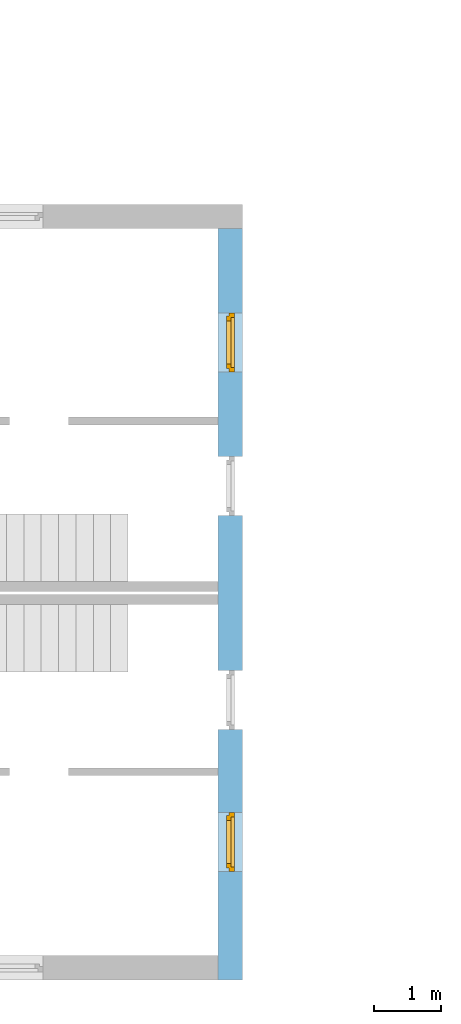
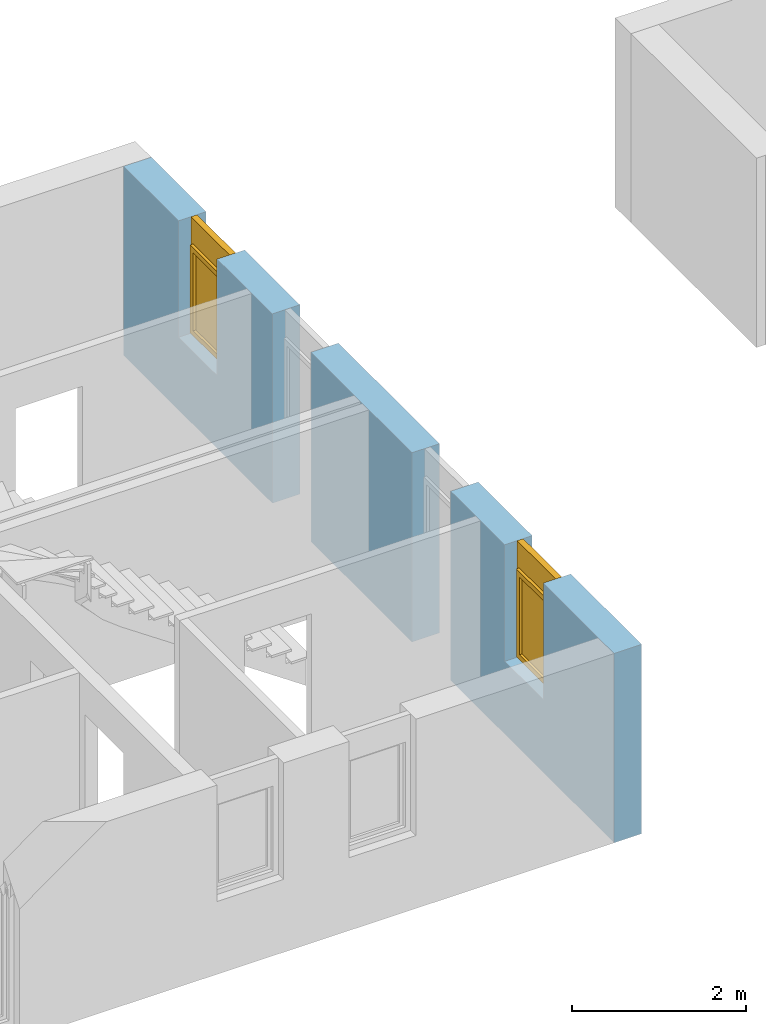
# One storey, part 12 of 42: 2 windows, 4 openings, plus 1 element that does not belong to this part.
"""IFC2X3 building model written with IfcOpenShell, lengths in millimetres."""

from ifc_helpers import new_model, entity, si_unit, converted_unit, frame, frame_2d, origin, origin_with_axes, place, context, subcontext, project, spatial, rectangle, extrude, faceted_brep, material, layer, layer_set, layer_usage, type_object, element, fill, save


model = new_model("IFC2X3")

# Units and contexts
model_context = context("Model", 3, precision=1e-05, world=origin())
body_context = subcontext(model_context, "Body", "Model", "MODEL_VIEW")
ifc_project = project(units=[si_unit("LENGTHUNIT", "METRE", prefix="MILLI"), converted_unit("PLANEANGLEUNIT", "DEGREE", entity("IfcPlaneAngleMeasure", 0.0174532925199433), si_unit("PLANEANGLEUNIT", "RADIAN"), dimensions=[0, 0, 0, 0, 0, 0, 0]), si_unit("AREAUNIT", "SQUARE_METRE"), si_unit("VOLUMEUNIT", "CUBIC_METRE")], contexts=[model_context])

# Building, storey
building_placement = place(None, origin())
building = spatial("IfcBuilding", under=ifc_project, at=building_placement, Name="Gebäude", CompositionType="ELEMENT")
storey_placement = place(building_placement, frame((0.0, 0.0, 2730.0), z_axis=(0.0, 0.0, 1.0), x_axis=(1.0, 0.0, 0.0)))
storey = spatial("IfcBuildingStorey", under=building, at=storey_placement, Name="OG.- Grundriss", CompositionType="ELEMENT", Elevation=2730.0)

# Wall, openings, windows
ifc_material_1 = material(Name="Poroton")
ifc_layer = layer(ifc_material_1, 365.0000000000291)
ifc_layer_set = layer_set([ifc_layer])
ifc_layer_usage = layer_usage(ifc_layer_set, "AXIS2", "POSITIVE", 0.0)
wall_placement = place(storey_placement, frame((142357.7928067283, 125274.8877321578, 0.0), z_axis=(0.0, 0.0, 1.0), x_axis=(0.0, 1.0, 0.0)))
wall = element("IfcWallStandardCase", 1, at=wall_placement, inside=storey, material=ifc_layer_usage, Name="<Unnamed Element>", context=body_context, shape_type="SweptSolid", body=[
    extrude(rectangle(XDim=11250.00000031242, YDim=365.0000000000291, at=frame_2d((5625.000000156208, 182.5000000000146), x_axis=(1.0, 0.0))), origin_with_axes(), (0.0, 0.0, 1.0), 2650.0),
])
opening_1_placement = place(wall_placement, frame((3750.0, 0.0, 0.0), z_axis=(0.0, 1.0, 0.0), x_axis=(0.0, 0.0, 1.0)))
element("IfcOpeningElement", 2, at=opening_1_placement, cuts=wall, Name="Fensteröffnung", ObjectType="Opening", context=body_context, shape_type="SweptSolid", body=[
    extrude(rectangle(XDim=2650.0, YDim=885.0, at=frame_2d((1325.0, 442.5), x_axis=(1.0, 0.0))), origin_with_axes(), (0.0, 0.0, 1.0), 365.0000000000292),
])
opening_2_placement = place(wall_placement, frame((6955.000000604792, 0.0, 0.0), z_axis=(0.0, 1.0, 0.0), x_axis=(0.0, 0.0, 1.0)))
element("IfcOpeningElement", 3, at=opening_2_placement, cuts=wall, Name="Fensteröffnung", ObjectType="Opening", context=body_context, shape_type="SweptSolid", body=[
    extrude(rectangle(XDim=2650.0, YDim=885.0, at=frame_2d((1325.0, 442.5), x_axis=(1.0, 0.0))), origin_with_axes(), (0.0, 0.0, 1.0), 365.0000000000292),
])
opening_3_placement = place(wall_placement, frame((9105.000000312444, 0.0, 1020.0), z_axis=(0.0, 1.0, 0.0), x_axis=(0.0, 0.0, 1.0)))
opening_3 = element("IfcOpeningElement", 4, at=opening_3_placement, cuts=wall, Name="Fensteröffnung", ObjectType="Opening", context=body_context, shape_type="SweptSolid", body=[
    extrude(rectangle(XDim=1630.0, YDim=885.0, at=frame_2d((815.0, 442.5), x_axis=(1.0, 0.0))), origin_with_axes(), (0.0, 0.0, 1.0), 365.0000000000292),
])
opening_4_placement = place(wall_placement, frame((1625.0, 0.0, 1020.0), z_axis=(0.0, 1.0, 0.0), x_axis=(0.0, 0.0, 1.0)))
opening_4 = element("IfcOpeningElement", 5, at=opening_4_placement, cuts=wall, Name="Fensteröffnung", ObjectType="Opening", context=body_context, shape_type="SweptSolid", body=[
    extrude(rectangle(XDim=1630.0, YDim=885.0, at=frame_2d((815.0, 442.5), x_axis=(1.0, 0.0))), origin_with_axes(), (0.0, 0.0, 1.0), 365.0000000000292),
])
ifc_material_2 = material()
window_style_1 = type_object("IfcWindowStyle", Name="Fenster", ConstructionType="NOTDEFINED", OperationType="USERDEFINED", ParameterTakesPrecedence=False, Sizeable=False)
window_1_placement = place(opening_3_placement, frame((0.0, 0.0, 0.0), z_axis=(1.0, 0.0, 0.0), x_axis=(0.0, 1.0, 0.0)))
window_1 = element("IfcWindow", 6, at=window_1_placement, inside=storey, type_object=window_style_1, material=ifc_material_2, Name="Fenster", OverallHeight=1630.0, OverallWidth=885.0, context=body_context, shape_type="Brep", body=[
    faceted_brep([(885.0, 200.0000000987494, 1630.0), (815.0, 200.0000000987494, 1630.0), (815.0, 200.0000000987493, -2.449293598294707e-15), (885.0, 200.0000000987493, -2.449293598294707e-15), (885.0, 120.0000000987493, 2.449293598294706e-15), (815.0, 120.0000000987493, 2.449293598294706e-15), (815.0, 120.0000000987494, 1630.0), (885.0, 120.0000000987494, 1630.0), (885.0, 200.0000000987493, -2.449293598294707e-15), (885.0, 120.0000000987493, 2.449293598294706e-15), (885.0, 120.0000000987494, 1630.0), (885.0, 200.0000000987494, 1630.0), (815.0, 200.0000000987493, -2.449293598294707e-15), (815.0, 120.0000000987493, 2.449293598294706e-15), (885.0, 120.0000000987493, 2.449293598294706e-15), (885.0, 200.0000000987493, -2.449293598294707e-15), (815.0, 200.0000000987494, 1630.0), (815.0, 120.0000000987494, 1630.0), (815.0, 120.0000000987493, 2.449293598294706e-15), (815.0, 200.0000000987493, -2.449293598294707e-15), (885.0, 200.0000000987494, 1630.0), (885.0, 120.0000000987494, 1630.0), (815.0, 120.0000000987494, 1630.0), (815.0, 200.0000000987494, 1630.0)], [[[0, 1, 2, 3]], [[4, 5, 6, 7]], [[8, 9, 10, 11]], [[12, 13, 14, 15]], [[16, 17, 18, 19]], [[20, 21, 22, 23]]], orient=[[False], [False], [False], [False], [False], [False]]),
    faceted_brep([(69.99999998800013, 200.0000000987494, 1630.0), (-1.199987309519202e-08, 200.0000000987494, 1630.0), (-1.199987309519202e-08, 200.0000000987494, -2.449293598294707e-15), (69.99999998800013, 200.0000000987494, -2.449293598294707e-15), (69.99999998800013, 120.0000000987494, 2.449293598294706e-15), (-1.199987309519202e-08, 120.0000000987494, 2.449293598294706e-15), (-1.199987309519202e-08, 120.0000000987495, 1630.0), (69.99999998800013, 120.0000000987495, 1630.0), (69.99999998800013, 200.0000000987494, -2.449293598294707e-15), (69.99999998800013, 120.0000000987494, 2.449293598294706e-15), (69.99999998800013, 120.0000000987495, 1630.0), (69.99999998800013, 200.0000000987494, 1630.0), (-1.199987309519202e-08, 200.0000000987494, -2.449293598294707e-15), (-1.199987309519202e-08, 120.0000000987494, 2.449293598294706e-15), (69.99999998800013, 120.0000000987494, 2.449293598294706e-15), (69.99999998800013, 200.0000000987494, -2.449293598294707e-15), (-1.199987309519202e-08, 200.0000000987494, 1630.0), (-1.199987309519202e-08, 120.0000000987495, 1630.0), (-1.199987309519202e-08, 120.0000000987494, 2.449293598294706e-15), (-1.199987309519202e-08, 200.0000000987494, -2.449293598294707e-15), (69.99999998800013, 200.0000000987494, 1630.0), (69.99999998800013, 120.0000000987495, 1630.0), (-1.199987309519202e-08, 120.0000000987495, 1630.0), (-1.199987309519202e-08, 200.0000000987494, 1630.0)], [[[0, 1, 2, 3]], [[4, 5, 6, 7]], [[8, 9, 10, 11]], [[12, 13, 14, 15]], [[16, 17, 18, 19]], [[20, 21, 22, 23]]], orient=[[False], [False], [False], [False], [False], [False]]),
    faceted_brep([(815.0, 200.0000000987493, 69.99999999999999), (69.99999998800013, 200.0000000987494, 69.99999999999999), (69.99999998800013, 200.0000000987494, -2.449293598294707e-15), (815.0, 200.0000000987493, -2.449293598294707e-15), (815.0, 120.0000000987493, 2.449293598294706e-15), (69.99999998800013, 120.0000000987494, 2.449293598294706e-15), (69.99999998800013, 120.0000000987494, 69.99999999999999), (815.0, 120.0000000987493, 69.99999999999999), (815.0, 200.0000000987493, -2.449293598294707e-15), (815.0, 120.0000000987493, 2.449293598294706e-15), (815.0, 120.0000000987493, 69.99999999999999), (815.0, 200.0000000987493, 69.99999999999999), (69.99999998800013, 200.0000000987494, -2.449293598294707e-15), (69.99999998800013, 120.0000000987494, 2.449293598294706e-15), (815.0, 120.0000000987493, 2.449293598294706e-15), (815.0, 200.0000000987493, -2.449293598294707e-15), (69.99999998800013, 200.0000000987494, 69.99999999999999), (69.99999998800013, 120.0000000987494, 69.99999999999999), (69.99999998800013, 120.0000000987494, 2.449293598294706e-15), (69.99999998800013, 200.0000000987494, -2.449293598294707e-15), (815.0, 200.0000000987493, 69.99999999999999), (815.0, 120.0000000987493, 69.99999999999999), (69.99999998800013, 120.0000000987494, 69.99999999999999), (69.99999998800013, 200.0000000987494, 69.99999999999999)], [[[0, 1, 2, 3]], [[4, 5, 6, 7]], [[8, 9, 10, 11]], [[12, 13, 14, 15]], [[16, 17, 18, 19]], [[20, 21, 22, 23]]], orient=[[False], [False], [False], [False], [False], [False]]),
    faceted_brep([(815.0, 200.0000000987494, 1630.0), (69.99999998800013, 200.0000000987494, 1630.0), (69.99999998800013, 200.0000000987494, 1260.0), (815.0, 200.0000000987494, 1260.0), (815.0, 120.0000000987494, 1260.0), (69.99999998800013, 120.0000000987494, 1260.0), (69.99999998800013, 120.0000000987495, 1630.0), (815.0, 120.0000000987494, 1630.0), (815.0, 200.0000000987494, 1260.0), (815.0, 120.0000000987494, 1260.0), (815.0, 120.0000000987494, 1630.0), (815.0, 200.0000000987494, 1630.0), (69.99999998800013, 200.0000000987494, 1260.0), (69.99999998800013, 120.0000000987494, 1260.0), (815.0, 120.0000000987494, 1260.0), (815.0, 200.0000000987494, 1260.0), (69.99999998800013, 200.0000000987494, 1630.0), (69.99999998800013, 120.0000000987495, 1630.0), (69.99999998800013, 120.0000000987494, 1260.0), (69.99999998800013, 200.0000000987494, 1260.0), (815.0, 200.0000000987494, 1630.0), (815.0, 120.0000000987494, 1630.0), (69.99999998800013, 120.0000000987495, 1630.0), (69.99999998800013, 200.0000000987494, 1630.0)], [[[0, 1, 2, 3]], [[4, 5, 6, 7]], [[8, 9, 10, 11]], [[12, 13, 14, 15]], [[16, 17, 18, 19]], [[20, 21, 22, 23]]], orient=[[False], [False], [False], [False], [False], [False]]),
    faceted_brep([(835.0, 240.0000000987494, 1280.0), (765.0, 240.0000000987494, 1280.0), (765.0, 240.0000000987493, 49.99999999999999), (835.0, 240.0000000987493, 49.99999999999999), (835.0, 170.0000000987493, 50.0), (765.0, 170.0000000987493, 50.0), (765.0, 170.0000000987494, 1280.0), (835.0, 170.0000000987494, 1280.0), (835.0, 240.0000000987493, 49.99999999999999), (835.0, 170.0000000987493, 50.0), (835.0, 170.0000000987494, 1280.0), (835.0, 240.0000000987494, 1280.0), (765.0, 240.0000000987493, 49.99999999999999), (765.0, 170.0000000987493, 50.0), (835.0, 170.0000000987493, 50.0), (835.0, 240.0000000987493, 49.99999999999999), (765.0, 240.0000000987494, 1280.0), (765.0, 170.0000000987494, 1280.0), (765.0, 170.0000000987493, 50.0), (765.0, 240.0000000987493, 49.99999999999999), (835.0, 240.0000000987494, 1280.0), (835.0, 170.0000000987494, 1280.0), (765.0, 170.0000000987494, 1280.0), (765.0, 240.0000000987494, 1280.0)], [[[0, 1, 2, 3]], [[4, 5, 6, 7]], [[8, 9, 10, 11]], [[12, 13, 14, 15]], [[16, 17, 18, 19]], [[20, 21, 22, 23]]], orient=[[False], [False], [False], [False], [False], [False]]),
    faceted_brep([(119.9999999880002, 240.0000000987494, 1280.0), (49.99999998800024, 240.0000000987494, 1280.0), (49.99999998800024, 240.0000000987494, 49.99999999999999), (119.9999999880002, 240.0000000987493, 49.99999999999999), (119.9999999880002, 170.0000000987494, 50.0), (49.99999998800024, 170.0000000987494, 50.0), (49.99999998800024, 170.0000000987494, 1280.0), (119.9999999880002, 170.0000000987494, 1280.0), (119.9999999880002, 240.0000000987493, 49.99999999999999), (119.9999999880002, 170.0000000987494, 50.0), (119.9999999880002, 170.0000000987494, 1280.0), (119.9999999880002, 240.0000000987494, 1280.0), (49.99999998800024, 240.0000000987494, 49.99999999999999), (49.99999998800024, 170.0000000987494, 50.0), (119.9999999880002, 170.0000000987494, 50.0), (119.9999999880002, 240.0000000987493, 49.99999999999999), (49.99999998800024, 240.0000000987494, 1280.0), (49.99999998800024, 170.0000000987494, 1280.0), (49.99999998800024, 170.0000000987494, 50.0), (49.99999998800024, 240.0000000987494, 49.99999999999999), (119.9999999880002, 240.0000000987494, 1280.0), (119.9999999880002, 170.0000000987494, 1280.0), (49.99999998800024, 170.0000000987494, 1280.0), (49.99999998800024, 240.0000000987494, 1280.0)], [[[0, 1, 2, 3]], [[4, 5, 6, 7]], [[8, 9, 10, 11]], [[12, 13, 14, 15]], [[16, 17, 18, 19]], [[20, 21, 22, 23]]], orient=[[False], [False], [False], [False], [False], [False]]),
    faceted_brep([(765.0, 240.0000000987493, 120.0), (119.9999999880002, 240.0000000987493, 120.0), (119.9999999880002, 240.0000000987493, 49.99999999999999), (765.0, 240.0000000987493, 49.99999999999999), (765.0, 170.0000000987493, 50.0), (119.9999999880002, 170.0000000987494, 50.0), (119.9999999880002, 170.0000000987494, 120.0), (765.0, 170.0000000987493, 120.0), (765.0, 240.0000000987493, 49.99999999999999), (765.0, 170.0000000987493, 50.0), (765.0, 170.0000000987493, 120.0), (765.0, 240.0000000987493, 120.0), (119.9999999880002, 240.0000000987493, 49.99999999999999), (119.9999999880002, 170.0000000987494, 50.0), (765.0, 170.0000000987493, 50.0), (765.0, 240.0000000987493, 49.99999999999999), (119.9999999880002, 240.0000000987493, 120.0), (119.9999999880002, 170.0000000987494, 120.0), (119.9999999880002, 170.0000000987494, 50.0), (119.9999999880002, 240.0000000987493, 49.99999999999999), (765.0, 240.0000000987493, 120.0), (765.0, 170.0000000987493, 120.0), (119.9999999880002, 170.0000000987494, 120.0), (119.9999999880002, 240.0000000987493, 120.0)], [[[0, 1, 2, 3]], [[4, 5, 6, 7]], [[8, 9, 10, 11]], [[12, 13, 14, 15]], [[16, 17, 18, 19]], [[20, 21, 22, 23]]], orient=[[False], [False], [False], [False], [False], [False]]),
    faceted_brep([(765.0, 240.0000000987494, 1280.0), (119.9999999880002, 240.0000000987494, 1280.0), (119.9999999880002, 240.0000000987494, 1210.0), (765.0, 240.0000000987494, 1210.0), (765.0, 170.0000000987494, 1210.0), (119.9999999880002, 170.0000000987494, 1210.0), (119.9999999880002, 170.0000000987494, 1280.0), (765.0, 170.0000000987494, 1280.0), (765.0, 240.0000000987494, 1210.0), (765.0, 170.0000000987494, 1210.0), (765.0, 170.0000000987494, 1280.0), (765.0, 240.0000000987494, 1280.0), (119.9999999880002, 240.0000000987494, 1210.0), (119.9999999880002, 170.0000000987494, 1210.0), (765.0, 170.0000000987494, 1210.0), (765.0, 240.0000000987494, 1210.0), (119.9999999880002, 240.0000000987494, 1280.0), (119.9999999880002, 170.0000000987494, 1280.0), (119.9999999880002, 170.0000000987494, 1210.0), (119.9999999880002, 240.0000000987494, 1210.0), (765.0, 240.0000000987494, 1280.0), (765.0, 170.0000000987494, 1280.0), (119.9999999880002, 170.0000000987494, 1280.0), (119.9999999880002, 240.0000000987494, 1280.0)], [[[0, 1, 2, 3]], [[4, 5, 6, 7]], [[8, 9, 10, 11]], [[12, 13, 14, 15]], [[16, 17, 18, 19]], [[20, 21, 22, 23]]], orient=[[False], [False], [False], [False], [False], [False]]),
    faceted_brep([(765.0, 205.0000000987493, 120.0), (765.0, 205.0000000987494, 1210.0), (119.9999999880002, 205.0000000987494, 1210.0), (119.9999999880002, 205.0000000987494, 120.0), (765.0, 204.0000000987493, 120.0), (119.9999999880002, 204.0000000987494, 120.0), (119.9999999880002, 204.0000000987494, 1210.0), (765.0, 204.0000000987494, 1210.0), (765.0, 205.0000000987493, 120.0), (765.0, 204.0000000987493, 120.0), (765.0, 204.0000000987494, 1210.0), (765.0, 205.0000000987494, 1210.0), (765.0, 205.0000000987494, 1210.0), (765.0, 204.0000000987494, 1210.0), (119.9999999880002, 204.0000000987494, 1210.0), (119.9999999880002, 205.0000000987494, 1210.0), (119.9999999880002, 205.0000000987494, 1210.0), (119.9999999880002, 204.0000000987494, 1210.0), (119.9999999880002, 204.0000000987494, 120.0), (119.9999999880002, 205.0000000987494, 120.0), (119.9999999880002, 205.0000000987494, 120.0), (119.9999999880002, 204.0000000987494, 120.0), (765.0, 204.0000000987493, 120.0), (765.0, 205.0000000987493, 120.0)], [[[0, 1, 2, 3]], [[4, 5, 6, 7]], [[8, 9, 10, 11]], [[12, 13, 14, 15]], [[16, 17, 18, 19]], [[20, 21, 22, 23]]], orient=[[False], [False], [False], [False], [False], [False]]),
])
fill(opening_3, window_1)
ifc_material_3 = material()
window_style_2 = type_object("IfcWindowStyle", Name="Fenster", ConstructionType="NOTDEFINED", OperationType="USERDEFINED", ParameterTakesPrecedence=False, Sizeable=False)
window_2_placement = place(opening_4_placement, frame((0.0, 0.0, 0.0), z_axis=(1.0, 0.0, 0.0), x_axis=(0.0, 1.0, 0.0)))
window_2 = element("IfcWindow", 7, at=window_2_placement, inside=storey, type_object=window_style_2, material=ifc_material_3, Name="Fenster", OverallHeight=1630.0, OverallWidth=885.0, context=body_context, shape_type="Brep", body=[
    faceted_brep([(4.898587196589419e-15, 200.0000000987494, 1630.0), (4.898587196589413e-15, 200.0000000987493, -2.449293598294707e-15), (70.0, 200.0000000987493, -2.449293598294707e-15), (70.0, 200.0000000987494, 1630.0), (0.0, 120.0000000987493, 2.449293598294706e-15), (6.091147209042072e-30, 120.0000000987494, 1630.0), (70.0, 120.0000000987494, 1630.0), (70.0, 120.0000000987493, 2.449293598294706e-15), (4.898587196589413e-15, 200.0000000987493, -2.449293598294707e-15), (4.898587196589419e-15, 200.0000000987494, 1630.0), (6.091147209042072e-30, 120.0000000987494, 1630.0), (0.0, 120.0000000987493, 2.449293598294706e-15), (70.0, 200.0000000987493, -2.449293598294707e-15), (4.898587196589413e-15, 200.0000000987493, -2.449293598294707e-15), (0.0, 120.0000000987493, 2.449293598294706e-15), (70.0, 120.0000000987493, 2.449293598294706e-15), (70.0, 200.0000000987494, 1630.0), (70.0, 200.0000000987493, -2.449293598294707e-15), (70.0, 120.0000000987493, 2.449293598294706e-15), (70.0, 120.0000000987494, 1630.0), (4.898587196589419e-15, 200.0000000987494, 1630.0), (70.0, 200.0000000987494, 1630.0), (70.0, 120.0000000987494, 1630.0), (6.091147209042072e-30, 120.0000000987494, 1630.0)], [[[0, 1, 2, 3]], [[4, 5, 6, 7]], [[8, 9, 10, 11]], [[12, 13, 14, 15]], [[16, 17, 18, 19]], [[20, 21, 22, 23]]], orient=[[False], [False], [False], [False], [False], [False]]),
    faceted_brep([(815.0000000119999, 200.0000000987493, 1630.0), (815.0000000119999, 200.0000000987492, -2.449293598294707e-15), (885.0000000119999, 200.0000000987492, -2.449293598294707e-15), (885.0000000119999, 200.0000000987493, 1630.0), (815.0000000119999, 120.0000000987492, 2.449293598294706e-15), (815.0000000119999, 120.0000000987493, 1630.0), (885.0000000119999, 120.0000000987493, 1630.0), (885.0000000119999, 120.0000000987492, 2.449293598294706e-15), (815.0000000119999, 200.0000000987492, -2.449293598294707e-15), (815.0000000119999, 200.0000000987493, 1630.0), (815.0000000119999, 120.0000000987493, 1630.0), (815.0000000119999, 120.0000000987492, 2.449293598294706e-15), (885.0000000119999, 200.0000000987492, -2.449293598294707e-15), (815.0000000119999, 200.0000000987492, -2.449293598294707e-15), (815.0000000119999, 120.0000000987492, 2.449293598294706e-15), (885.0000000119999, 120.0000000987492, 2.449293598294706e-15), (885.0000000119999, 200.0000000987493, 1630.0), (885.0000000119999, 200.0000000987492, -2.449293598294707e-15), (885.0000000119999, 120.0000000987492, 2.449293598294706e-15), (885.0000000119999, 120.0000000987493, 1630.0), (815.0000000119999, 200.0000000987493, 1630.0), (885.0000000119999, 200.0000000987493, 1630.0), (885.0000000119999, 120.0000000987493, 1630.0), (815.0000000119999, 120.0000000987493, 1630.0)], [[[0, 1, 2, 3]], [[4, 5, 6, 7]], [[8, 9, 10, 11]], [[12, 13, 14, 15]], [[16, 17, 18, 19]], [[20, 21, 22, 23]]], orient=[[False], [False], [False], [False], [False], [False]]),
    faceted_brep([(70.0, 200.0000000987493, 69.99999999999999), (70.0, 200.0000000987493, -2.449293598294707e-15), (815.0000000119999, 200.0000000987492, -2.449293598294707e-15), (815.0000000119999, 200.0000000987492, 69.99999999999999), (70.0, 120.0000000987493, 2.449293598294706e-15), (70.0, 120.0000000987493, 69.99999999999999), (815.0000000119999, 120.0000000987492, 69.99999999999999), (815.0000000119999, 120.0000000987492, 2.449293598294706e-15), (70.0, 200.0000000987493, -2.449293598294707e-15), (70.0, 200.0000000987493, 69.99999999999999), (70.0, 120.0000000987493, 69.99999999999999), (70.0, 120.0000000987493, 2.449293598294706e-15), (815.0000000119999, 200.0000000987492, -2.449293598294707e-15), (70.0, 200.0000000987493, -2.449293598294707e-15), (70.0, 120.0000000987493, 2.449293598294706e-15), (815.0000000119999, 120.0000000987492, 2.449293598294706e-15), (815.0000000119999, 200.0000000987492, 69.99999999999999), (815.0000000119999, 200.0000000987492, -2.449293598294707e-15), (815.0000000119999, 120.0000000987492, 2.449293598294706e-15), (815.0000000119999, 120.0000000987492, 69.99999999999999), (70.0, 200.0000000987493, 69.99999999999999), (815.0000000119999, 200.0000000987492, 69.99999999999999), (815.0000000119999, 120.0000000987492, 69.99999999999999), (70.0, 120.0000000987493, 69.99999999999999)], [[[0, 1, 2, 3]], [[4, 5, 6, 7]], [[8, 9, 10, 11]], [[12, 13, 14, 15]], [[16, 17, 18, 19]], [[20, 21, 22, 23]]], orient=[[False], [False], [False], [False], [False], [False]]),
    faceted_brep([(70.0, 200.0000000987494, 1630.0), (70.0, 200.0000000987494, 1260.0), (815.0000000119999, 200.0000000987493, 1260.0), (815.0000000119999, 200.0000000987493, 1630.0), (70.0, 120.0000000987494, 1260.0), (70.0, 120.0000000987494, 1630.0), (815.0000000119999, 120.0000000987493, 1630.0), (815.0000000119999, 120.0000000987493, 1260.0), (70.0, 200.0000000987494, 1260.0), (70.0, 200.0000000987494, 1630.0), (70.0, 120.0000000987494, 1630.0), (70.0, 120.0000000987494, 1260.0), (815.0000000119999, 200.0000000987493, 1260.0), (70.0, 200.0000000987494, 1260.0), (70.0, 120.0000000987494, 1260.0), (815.0000000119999, 120.0000000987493, 1260.0), (815.0000000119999, 200.0000000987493, 1630.0), (815.0000000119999, 200.0000000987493, 1260.0), (815.0000000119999, 120.0000000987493, 1260.0), (815.0000000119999, 120.0000000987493, 1630.0), (70.0, 200.0000000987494, 1630.0), (815.0000000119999, 200.0000000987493, 1630.0), (815.0000000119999, 120.0000000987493, 1630.0), (70.0, 120.0000000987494, 1630.0)], [[[0, 1, 2, 3]], [[4, 5, 6, 7]], [[8, 9, 10, 11]], [[12, 13, 14, 15]], [[16, 17, 18, 19]], [[20, 21, 22, 23]]], orient=[[False], [False], [False], [False], [False], [False]]),
    faceted_brep([(50.00000000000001, 240.0000000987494, 1280.0), (50.00000000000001, 240.0000000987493, 49.99999999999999), (120.0, 240.0000000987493, 49.99999999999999), (120.0, 240.0000000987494, 1280.0), (50.0, 170.0000000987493, 50.0), (50.0, 170.0000000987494, 1280.0), (120.0, 170.0000000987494, 1280.0), (120.0, 170.0000000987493, 50.0), (50.00000000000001, 240.0000000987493, 49.99999999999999), (50.00000000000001, 240.0000000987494, 1280.0), (50.0, 170.0000000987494, 1280.0), (50.0, 170.0000000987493, 50.0), (120.0, 240.0000000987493, 49.99999999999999), (50.00000000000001, 240.0000000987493, 49.99999999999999), (50.0, 170.0000000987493, 50.0), (120.0, 170.0000000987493, 50.0), (120.0, 240.0000000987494, 1280.0), (120.0, 240.0000000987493, 49.99999999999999), (120.0, 170.0000000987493, 50.0), (120.0, 170.0000000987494, 1280.0), (50.00000000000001, 240.0000000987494, 1280.0), (120.0, 240.0000000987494, 1280.0), (120.0, 170.0000000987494, 1280.0), (50.0, 170.0000000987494, 1280.0)], [[[0, 1, 2, 3]], [[4, 5, 6, 7]], [[8, 9, 10, 11]], [[12, 13, 14, 15]], [[16, 17, 18, 19]], [[20, 21, 22, 23]]], orient=[[False], [False], [False], [False], [False], [False]]),
    faceted_brep([(765.0000000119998, 240.0000000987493, 1280.0), (765.0000000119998, 240.0000000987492, 49.99999999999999), (835.0000000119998, 240.0000000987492, 49.99999999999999), (835.0000000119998, 240.0000000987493, 1280.0), (765.0000000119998, 170.0000000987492, 50.0), (765.0000000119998, 170.0000000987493, 1280.0), (835.0000000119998, 170.0000000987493, 1280.0), (835.0000000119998, 170.0000000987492, 50.0), (765.0000000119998, 240.0000000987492, 49.99999999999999), (765.0000000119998, 240.0000000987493, 1280.0), (765.0000000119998, 170.0000000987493, 1280.0), (765.0000000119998, 170.0000000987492, 50.0), (835.0000000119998, 240.0000000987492, 49.99999999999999), (765.0000000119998, 240.0000000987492, 49.99999999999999), (765.0000000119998, 170.0000000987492, 50.0), (835.0000000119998, 170.0000000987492, 50.0), (835.0000000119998, 240.0000000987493, 1280.0), (835.0000000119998, 240.0000000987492, 49.99999999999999), (835.0000000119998, 170.0000000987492, 50.0), (835.0000000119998, 170.0000000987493, 1280.0), (765.0000000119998, 240.0000000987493, 1280.0), (835.0000000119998, 240.0000000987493, 1280.0), (835.0000000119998, 170.0000000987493, 1280.0), (765.0000000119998, 170.0000000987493, 1280.0)], [[[0, 1, 2, 3]], [[4, 5, 6, 7]], [[8, 9, 10, 11]], [[12, 13, 14, 15]], [[16, 17, 18, 19]], [[20, 21, 22, 23]]], orient=[[False], [False], [False], [False], [False], [False]]),
    faceted_brep([(120.0, 240.0000000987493, 120.0), (120.0, 240.0000000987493, 49.99999999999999), (765.0000000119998, 240.0000000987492, 49.99999999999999), (765.0000000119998, 240.0000000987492, 120.0), (120.0, 170.0000000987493, 50.0), (120.0, 170.0000000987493, 120.0), (765.0000000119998, 170.0000000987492, 120.0), (765.0000000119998, 170.0000000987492, 50.0), (120.0, 240.0000000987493, 49.99999999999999), (120.0, 240.0000000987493, 120.0), (120.0, 170.0000000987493, 120.0), (120.0, 170.0000000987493, 50.0), (765.0000000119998, 240.0000000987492, 49.99999999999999), (120.0, 240.0000000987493, 49.99999999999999), (120.0, 170.0000000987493, 50.0), (765.0000000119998, 170.0000000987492, 50.0), (765.0000000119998, 240.0000000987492, 120.0), (765.0000000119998, 240.0000000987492, 49.99999999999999), (765.0000000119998, 170.0000000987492, 50.0), (765.0000000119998, 170.0000000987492, 120.0), (120.0, 240.0000000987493, 120.0), (765.0000000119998, 240.0000000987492, 120.0), (765.0000000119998, 170.0000000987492, 120.0), (120.0, 170.0000000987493, 120.0)], [[[0, 1, 2, 3]], [[4, 5, 6, 7]], [[8, 9, 10, 11]], [[12, 13, 14, 15]], [[16, 17, 18, 19]], [[20, 21, 22, 23]]], orient=[[False], [False], [False], [False], [False], [False]]),
    faceted_brep([(120.0, 240.0000000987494, 1280.0), (120.0, 240.0000000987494, 1210.0), (765.0000000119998, 240.0000000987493, 1210.0), (765.0000000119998, 240.0000000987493, 1280.0), (120.0, 170.0000000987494, 1210.0), (120.0, 170.0000000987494, 1280.0), (765.0000000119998, 170.0000000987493, 1280.0), (765.0000000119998, 170.0000000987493, 1210.0), (120.0, 240.0000000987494, 1210.0), (120.0, 240.0000000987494, 1280.0), (120.0, 170.0000000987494, 1280.0), (120.0, 170.0000000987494, 1210.0), (765.0000000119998, 240.0000000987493, 1210.0), (120.0, 240.0000000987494, 1210.0), (120.0, 170.0000000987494, 1210.0), (765.0000000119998, 170.0000000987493, 1210.0), (765.0000000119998, 240.0000000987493, 1280.0), (765.0000000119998, 240.0000000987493, 1210.0), (765.0000000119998, 170.0000000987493, 1210.0), (765.0000000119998, 170.0000000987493, 1280.0), (120.0, 240.0000000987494, 1280.0), (765.0000000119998, 240.0000000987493, 1280.0), (765.0000000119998, 170.0000000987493, 1280.0), (120.0, 170.0000000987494, 1280.0)], [[[0, 1, 2, 3]], [[4, 5, 6, 7]], [[8, 9, 10, 11]], [[12, 13, 14, 15]], [[16, 17, 18, 19]], [[20, 21, 22, 23]]], orient=[[False], [False], [False], [False], [False], [False]]),
    faceted_brep([(120.0, 205.0000000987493, 120.0), (765.0000000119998, 205.0000000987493, 120.0), (765.0000000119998, 205.0000000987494, 1210.0), (120.0, 205.0000000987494, 1210.0), (120.0, 204.0000000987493, 120.0), (120.0, 204.0000000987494, 1210.0), (765.0000000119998, 204.0000000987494, 1210.0), (765.0000000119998, 204.0000000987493, 120.0), (120.0, 205.0000000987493, 120.0), (120.0, 204.0000000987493, 120.0), (765.0000000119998, 204.0000000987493, 120.0), (765.0000000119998, 205.0000000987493, 120.0), (765.0000000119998, 205.0000000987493, 120.0), (765.0000000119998, 204.0000000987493, 120.0), (765.0000000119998, 204.0000000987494, 1210.0), (765.0000000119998, 205.0000000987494, 1210.0), (765.0000000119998, 205.0000000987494, 1210.0), (765.0000000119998, 204.0000000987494, 1210.0), (120.0, 204.0000000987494, 1210.0), (120.0, 205.0000000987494, 1210.0), (120.0, 205.0000000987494, 1210.0), (120.0, 204.0000000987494, 1210.0), (120.0, 204.0000000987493, 120.0), (120.0, 205.0000000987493, 120.0)], [[[0, 1, 2, 3]], [[4, 5, 6, 7]], [[8, 9, 10, 11]], [[12, 13, 14, 15]], [[16, 17, 18, 19]], [[20, 21, 22, 23]]], orient=[[False], [False], [False], [False], [False], [False]]),
])
fill(opening_4, window_2)

save(model, "model.ifc")
